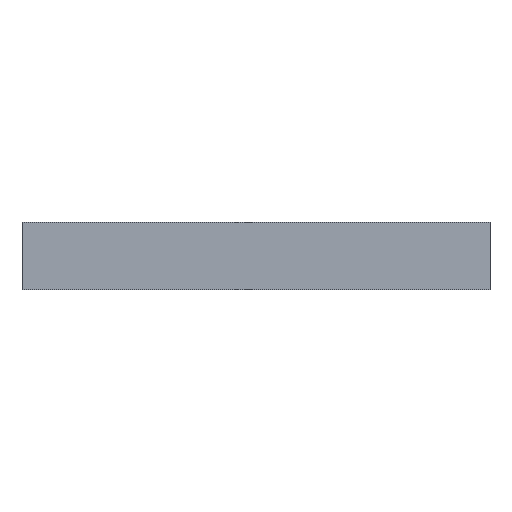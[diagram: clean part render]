
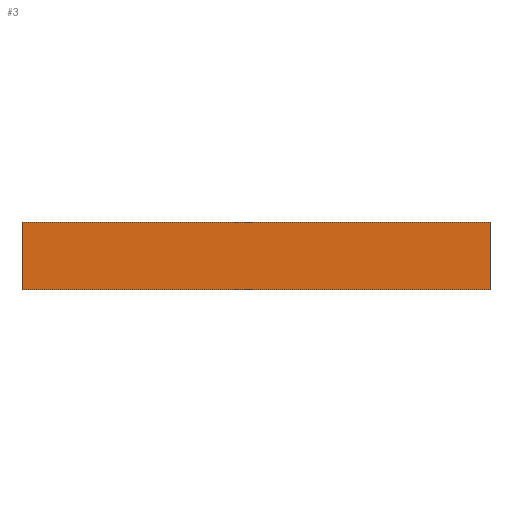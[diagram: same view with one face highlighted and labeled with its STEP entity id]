
A CAD part, top view. The second image highlights one B-rep face of the part: STEP entity #3.
In plain terms, the highlighted planar face has unit normal (0, 0, 1).
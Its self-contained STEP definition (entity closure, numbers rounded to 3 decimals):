
#3 = ADVANCED_FACE ( 'NONE', ( #41 ), #176, .F. ) ;
#9 = ORIENTED_EDGE ( 'NONE', *, *, #148, .T. ) ;
#11 = VECTOR ( 'NONE', #120, 1000. ) ;
#13 = ORIENTED_EDGE ( 'NONE', *, *, #150, .T. ) ;
#24 = ORIENTED_EDGE ( 'NONE', *, *, #161, .T. ) ;
#29 = VECTOR ( 'NONE', #114, 1000. ) ;
#34 = LINE ( 'NONE', #132, #64 ) ;
#37 = ORIENTED_EDGE ( 'NONE', *, *, #157, .T. ) ;
#41 = FACE_OUTER_BOUND ( 'NONE', #49, .T. ) ;
#49 = EDGE_LOOP ( 'NONE', ( #13, #24, #37, #9 ) ) ;
#64 = VECTOR ( 'NONE', #127, 1000. ) ;
#72 = VECTOR ( 'NONE', #129, 1000. ) ;
#73 = LINE ( 'NONE', #115, #29 ) ;
#77 = LINE ( 'NONE', #130, #72 ) ;
#78 = LINE ( 'NONE', #124, #11 ) ;
#108 = CARTESIAN_POINT ( 'NONE',  ( -207.5, 30., 2. ) ) ;
#109 = CARTESIAN_POINT ( 'NONE',  ( -207.5, -30., 2. ) ) ;
#110 = CARTESIAN_POINT ( 'NONE',  ( 207.5, 30., 2. ) ) ;
#114 = DIRECTION ( 'NONE',  ( 1., 0., 0. ) ) ;
#115 = CARTESIAN_POINT ( 'NONE',  ( -207.5, -30., 2. ) ) ;
#120 = DIRECTION ( 'NONE',  ( 0., 1., 0. ) ) ;
#121 = CARTESIAN_POINT ( 'NONE',  ( 207.5, -30., 2. ) ) ;
#124 = CARTESIAN_POINT ( 'NONE',  ( 207.5, -30., 2. ) ) ;
#127 = DIRECTION ( 'NONE',  ( 0., -1., 0. ) ) ;
#129 = DIRECTION ( 'NONE',  ( -1., 0., 0. ) ) ;
#130 = CARTESIAN_POINT ( 'NONE',  ( -207.5, 30., 2. ) ) ;
#132 = CARTESIAN_POINT ( 'NONE',  ( -207.5, -30., 2. ) ) ;
#144 = AXIS2_PLACEMENT_3D ( 'NONE', #189, #191, #193 ) ;
#148 = EDGE_CURVE ( 'NONE', #182, #187, #77, .T. ) ;
#150 = EDGE_CURVE ( 'NONE', #187, #186, #34, .T. ) ;
#157 = EDGE_CURVE ( 'NONE', #196, #182, #78, .T. ) ;
#161 = EDGE_CURVE ( 'NONE', #186, #196, #73, .T. ) ;
#176 = PLANE ( 'NONE',  #144 ) ;
#182 = VERTEX_POINT ( 'NONE', #110 ) ;
#186 = VERTEX_POINT ( 'NONE', #109 ) ;
#187 = VERTEX_POINT ( 'NONE', #108 ) ;
#189 = CARTESIAN_POINT ( 'NONE',  ( -207.5, 30., 2. ) ) ;
#191 = DIRECTION ( 'NONE',  ( 0., 0., -1. ) ) ;
#193 = DIRECTION ( 'NONE',  ( -1., 0., 0. ) ) ;
#196 = VERTEX_POINT ( 'NONE', #121 ) ;
